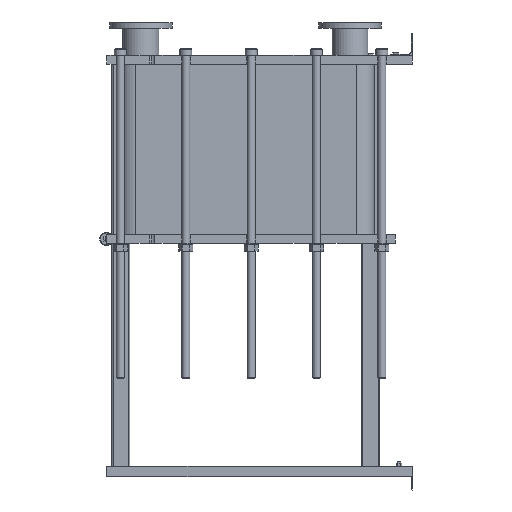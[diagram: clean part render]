
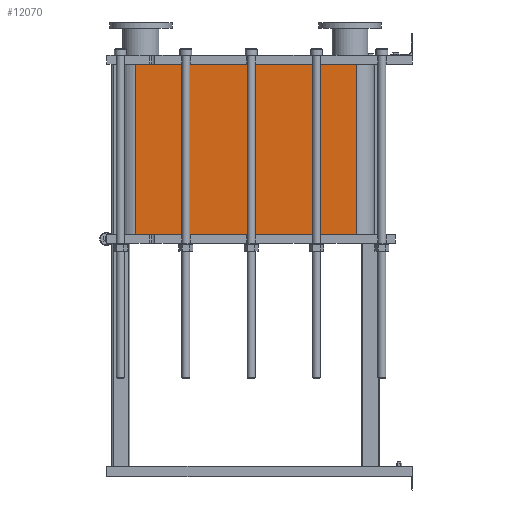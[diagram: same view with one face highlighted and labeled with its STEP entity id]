
A CAD part, left-side view. The second image highlights one B-rep face of the part: STEP entity #12070.
In plain terms, the highlighted planar face has unit normal (-1, 0, 0).
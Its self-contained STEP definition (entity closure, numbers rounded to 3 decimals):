
#1064=LINE('',#21140,#2164);
#1065=LINE('',#21144,#2165);
#1066=LINE('',#21146,#2166);
#1067=LINE('',#21147,#2167);
#2164=VECTOR('',#15790,10.);
#2165=VECTOR('',#15795,10.);
#2166=VECTOR('',#15796,10.);
#2167=VECTOR('',#15797,10.);
#3304=FACE_OUTER_BOUND('',#4091,.T.);
#4091=EDGE_LOOP('',(#9793,#9794,#9795,#9796));
#5677=VERTEX_POINT('',#21137);
#5678=VERTEX_POINT('',#21139);
#5679=VERTEX_POINT('',#21143);
#5680=VERTEX_POINT('',#21145);
#7118=EDGE_CURVE('',#5678,#5677,#1064,.T.);
#7120=EDGE_CURVE('',#5677,#5679,#1065,.T.);
#7121=EDGE_CURVE('',#5680,#5679,#1066,.T.);
#7122=EDGE_CURVE('',#5680,#5678,#1067,.T.);
#9793=ORIENTED_EDGE('',*,*,#7120,.T.);
#9794=ORIENTED_EDGE('',*,*,#7121,.F.);
#9795=ORIENTED_EDGE('',*,*,#7122,.T.);
#9796=ORIENTED_EDGE('',*,*,#7118,.T.);
#11441=PLANE('',#13191);
#12070=ADVANCED_FACE('',(#3304),#11441,.T.);
#13191=AXIS2_PLACEMENT_3D('',#21142,#15793,#15794);
#15790=DIRECTION('',(0.,0.,-1.));
#15793=DIRECTION('center_axis',(-1.,0.,0.));
#15794=DIRECTION('ref_axis',(0.,1.,0.));
#15795=DIRECTION('',(0.,-1.,0.));
#15796=DIRECTION('',(0.,0.,-1.));
#15797=DIRECTION('',(0.,1.,0.));
#21137=CARTESIAN_POINT('',(-248.152,1243.818,-765.9));
#21139=CARTESIAN_POINT('',(-248.152,1243.818,0.));
#21140=CARTESIAN_POINT('',(-248.152,1243.818,0.));
#21142=CARTESIAN_POINT('Origin',(-248.152,251.818,0.));
#21143=CARTESIAN_POINT('',(-248.152,251.818,-765.9));
#21144=CARTESIAN_POINT('',(-248.152,499.818,-765.9));
#21145=CARTESIAN_POINT('',(-248.152,251.818,0.));
#21146=CARTESIAN_POINT('',(-248.152,251.818,0.));
#21147=CARTESIAN_POINT('',(-248.152,251.818,0.));
